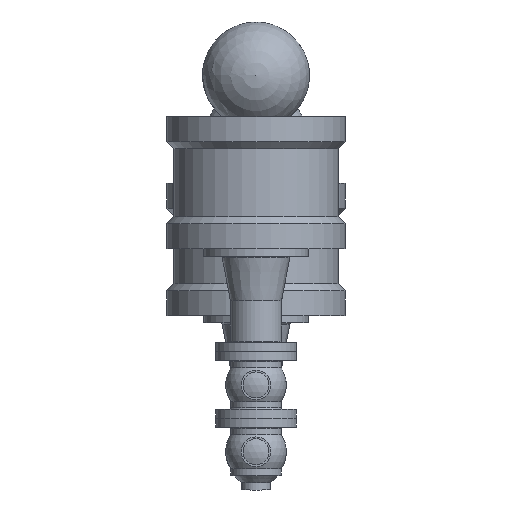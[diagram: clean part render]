
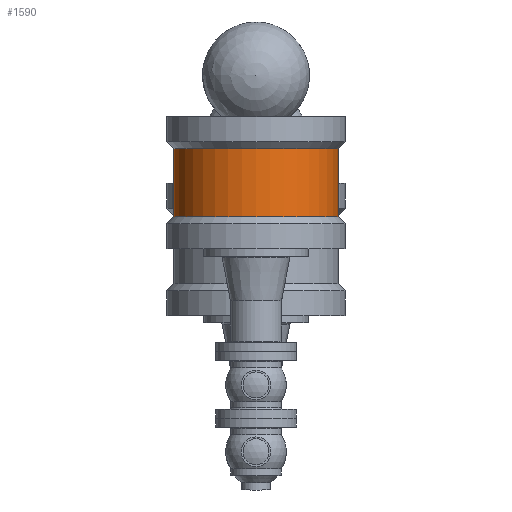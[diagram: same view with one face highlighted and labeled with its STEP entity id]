
A CAD part, front view. The second image highlights one B-rep face of the part: STEP entity #1590.
In plain terms, the highlighted cylindrical face has radius 110.5 mm (diameter 221 mm), a full revolution.
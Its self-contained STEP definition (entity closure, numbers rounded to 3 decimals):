
#287=FACE_OUTER_BOUND('',#396,.T.);
#396=EDGE_LOOP('',(#1316,#1317,#1318,#1319,#1320,#1321));
#473=LINE('',#3002,#515);
#515=VECTOR('',#2423,110.5);
#629=CIRCLE('',#1933,110.5);
#630=CIRCLE('',#1934,110.5);
#631=CIRCLE('',#1936,110.5);
#632=CIRCLE('',#1937,110.5);
#792=VERTEX_POINT('',#2992);
#793=VERTEX_POINT('',#2993);
#794=VERTEX_POINT('',#2998);
#795=VERTEX_POINT('',#2999);
#980=EDGE_CURVE('',#792,#793,#629,.T.);
#981=EDGE_CURVE('',#793,#792,#630,.T.);
#983=EDGE_CURVE('',#794,#795,#631,.T.);
#984=EDGE_CURVE('',#795,#794,#632,.T.);
#985=EDGE_CURVE('',#795,#793,#473,.T.);
#1316=ORIENTED_EDGE('',*,*,#983,.F.);
#1317=ORIENTED_EDGE('',*,*,#984,.F.);
#1318=ORIENTED_EDGE('',*,*,#985,.T.);
#1319=ORIENTED_EDGE('',*,*,#981,.T.);
#1320=ORIENTED_EDGE('',*,*,#980,.T.);
#1321=ORIENTED_EDGE('',*,*,#985,.F.);
#1520=CYLINDRICAL_SURFACE('',#1935,110.5);
#1590=ADVANCED_FACE('',(#287),#1520,.T.);
#1933=AXIS2_PLACEMENT_3D('',#2994,#2412,#2413);
#1934=AXIS2_PLACEMENT_3D('',#2995,#2414,#2415);
#1935=AXIS2_PLACEMENT_3D('',#2997,#2417,#2418);
#1936=AXIS2_PLACEMENT_3D('',#3000,#2419,#2420);
#1937=AXIS2_PLACEMENT_3D('',#3001,#2421,#2422);
#2412=DIRECTION('center_axis',(-1.,0.,0.));
#2413=DIRECTION('ref_axis',(0.,0.,1.));
#2414=DIRECTION('center_axis',(-1.,0.,0.));
#2415=DIRECTION('ref_axis',(0.,0.,1.));
#2417=DIRECTION('center_axis',(-1.,0.,0.));
#2418=DIRECTION('ref_axis',(0.,0.,1.));
#2419=DIRECTION('center_axis',(-1.,0.,0.));
#2420=DIRECTION('ref_axis',(0.,0.,1.));
#2421=DIRECTION('center_axis',(-1.,0.,0.));
#2422=DIRECTION('ref_axis',(0.,0.,1.));
#2423=DIRECTION('',(1.,0.,0.));
#2992=CARTESIAN_POINT('',(-46.,0.,110.5));
#2993=CARTESIAN_POINT('',(-46.,0.,-110.5));
#2994=CARTESIAN_POINT('Origin',(-46.,0.,0.));
#2995=CARTESIAN_POINT('Origin',(-46.,0.,0.));
#2997=CARTESIAN_POINT('Origin',(-92.,0.,0.));
#2998=CARTESIAN_POINT('',(-138.,0.,110.5));
#2999=CARTESIAN_POINT('',(-138.,0.,-110.5));
#3000=CARTESIAN_POINT('Origin',(-138.,0.,0.));
#3001=CARTESIAN_POINT('Origin',(-138.,0.,0.));
#3002=CARTESIAN_POINT('',(-92.,0.,-110.5));
